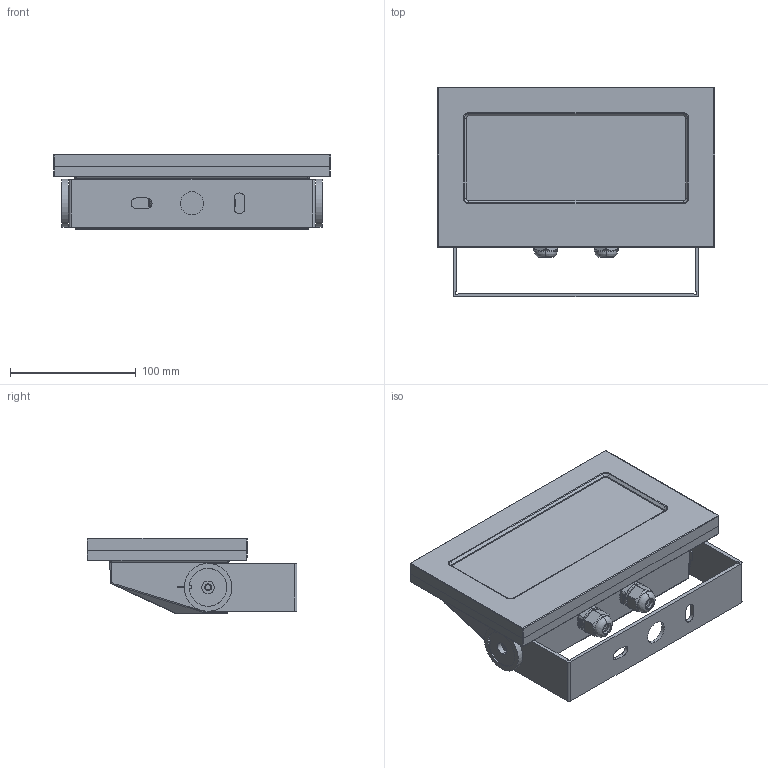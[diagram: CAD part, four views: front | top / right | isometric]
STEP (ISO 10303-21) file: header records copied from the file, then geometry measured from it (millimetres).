
FILE_DESCRIPTION((''),'2;1');
FILE_NAME('C3FKA1057_ASM_1_ASM','2024-11-23T',('C028'),(''),'CREO PARAMETRIC BY PTC INC, 2014190','CREO PARAMETRIC BY PTC INC, 2014190','');
FILE_SCHEMA(('CONFIG_CONTROL_DESIGN'));
Products named in the file (23): DT_172_1_9_1_1_1; MG00_154_1_2_1_1_1; 3FK-BOLI_152_1_14_1_1_1; DIYAQUDONG_101_1_2_1_1_1; ______2_167_1_2_1_1; 38CHIKUAI_220_1_2_1_4; 3FKCHIKUAIDIANKUAI0522_1; 3FKZUJIAN_ASM_156_ASM_1_ASM_A_1_ASM; M4X0_7X5L_150_1_2_1_1_1; PGB9___2_149_1_2_1_1_1; RT22-WC-MIFENGTIAO_153_1_2_1_1_; 3FK_ASM_150_ASM_1_ASM_ASM_3_1_A_ASM; BEND_7FK_22_1_1_3; AL_LUO_ZHU_5_1_1_2; SCREW_M3X10_3_1_1_1; SCREW_M3X6_2_1_1_1; 7FK-FGQ_1; 7FK-FGP_1; XINLVJIBAN-00_1_1; LENS-00_45_1_1; C20_ASM_1_1_ASM; ASM0001_ASM; C3FKA1057_ASM_1_ASM
Assembly tree (35 placements, depth 4):
  C3FKA1057_ASM_1_ASM
    3FK_ASM_150_ASM_1_ASM_ASM_3_1_A_ASM
      3FKZUJIAN_ASM_156_ASM_1_ASM_A_1_ASM
        DT_172_1_9_1_1_1
        MG00_154_1_2_1_1_1
        3FK-BOLI_152_1_14_1_1_1
        DIYAQUDONG_101_1_2_1_1_1
        ______2_167_1_2_1_1
        38CHIKUAI_220_1_2_1_4  x2
        3FKCHIKUAIDIANKUAI0522_1  x2
      M4X0_7X5L_150_1_2_1_1_1  x8
      PGB9___2_149_1_2_1_1_1  x2
      RT22-WC-MIFENGTIAO_153_1_2_1_1_
    BEND_7FK_22_1_1_3
    AL_LUO_ZHU_5_1_1_2  x2
    SCREW_M3X10_3_1_1_1  x2
    SCREW_M3X6_2_1_1_1
    7FK-FGQ_1
    7FK-FGP_1
    ASM0001_ASM
      C20_ASM_1_1_ASM
        XINLVJIBAN-00_1_1
        LENS-00_45_1_1  x2
Bounding box: 220.17 x 166.68 x 60 mm (x, y, z)
Volume: 536169.4 mm3; surface area: 386805.7 mm2
Topology: 31 solids, 31 shells, 3374 faces, 8888 edges, 5708 vertices
Faces by surface type: plane 1534, cylinder 938, bspline 393, torus 160, cone 152, extrusion 138, sphere 59
Entity records: 100009 total; most frequent: CARTESIAN_POINT 37090, ORIENTED_EDGE 13532, DIRECTION 12298, EDGE_CURVE 6766, AXIS2_PLACEMENT_3D 4429, VERTEX_POINT 4356, VECTOR 3440, LINE 3371
